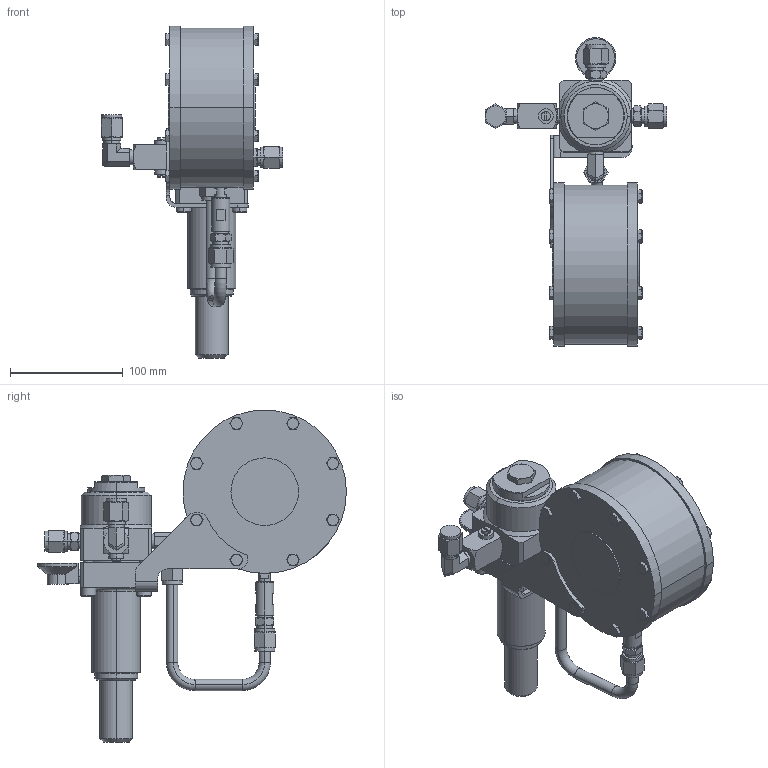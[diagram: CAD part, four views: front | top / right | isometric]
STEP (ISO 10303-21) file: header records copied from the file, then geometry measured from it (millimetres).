
FILE_DESCRIPTION((''),'2;1');
FILE_NAME('230100R0_MONT_WA_TUB-_SW150','2019-09-30T',('jjunior'),(''),'PRO/ENGINEER BY PARAMETRIC TECHNOLOGY CORPORATION, 2010160','PRO/ENGINEER BY PARAMETRIC TECHNOLOGY CORPORATION, 2010160','');
FILE_SCHEMA(('CONFIG_CONTROL_DESIGN'));
Length unit declared in the file: millimetre
Products named in the file (1): 230100R0_MONT_WA_TUB-_SW150
Bounding box: 161.46 x 274.06 x 294.61 mm (x, y, z)
Volume: 1622255.6 mm3; surface area: 205680.5 mm2
Topology: 1 solids, 4 shells, 1107 faces, 2501 edges, 1517 vertices
Faces by surface type: plane 393, cone 362, cylinder 296, torus 56
Entity records: 37265 total; most frequent: CARTESIAN_POINT 12794, DIRECTION 5168, ORIENTED_EDGE 4974, EDGE_CURVE 2487, AXIS2_PLACEMENT_3D 2140, VERTEX_POINT 1517, EDGE_LOOP 1272, FACE_OUTER_BOUND 1107
